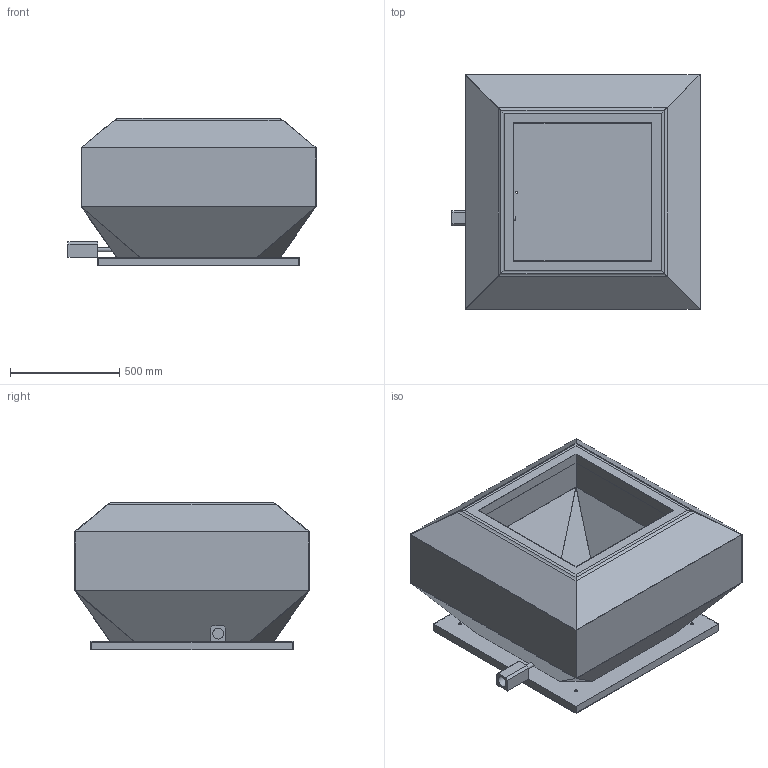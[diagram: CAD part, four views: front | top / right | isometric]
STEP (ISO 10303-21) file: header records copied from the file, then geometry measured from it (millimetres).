
FILE_DESCRIPTION(/* description */ (''),/* implementation_level */ '2;1');
FILE_NAME(/* name */ 'Z:\Output\VDD 560-6 EX-07430-001.stp',/* time_stamp */ '2017-05-05T17:39:43+02:00',/* author */ ('engineering1'),/* organization */ (''),/* preprocessor_version */ 'ST-DEVELOPER v16.5',/* originating_system */ 'Autodesk Inventor 2017',/* authorisation */ '');
FILE_SCHEMA (('AUTOMOTIVE_DESIGN { 1 0 10303 214 3 1 1 }'));
Length unit declared in the file: millimetre
Products named in the file (1): VD-1
Bounding box: 1136 x 1075 x 677 mm (x, y, z)
Volume: 9781389.4 mm3; surface area: 8522518.5 mm2
Topology: 1 solids, 1 shells, 81 faces, 187 edges, 112 vertices
Faces by surface type: plane 69, cylinder 10, bspline 2
Full cylindrical faces by diameter (mm): 10 x1, 14 x4, 20 x4, 50 x1
Entity records: 2227 total; most frequent: CARTESIAN_POINT 415, DIRECTION 351, ORIENTED_EDGE 344, EDGE_CURVE 171, LINE 151, VECTOR 151, EDGE_LOOP 110, VERTEX_POINT 110
